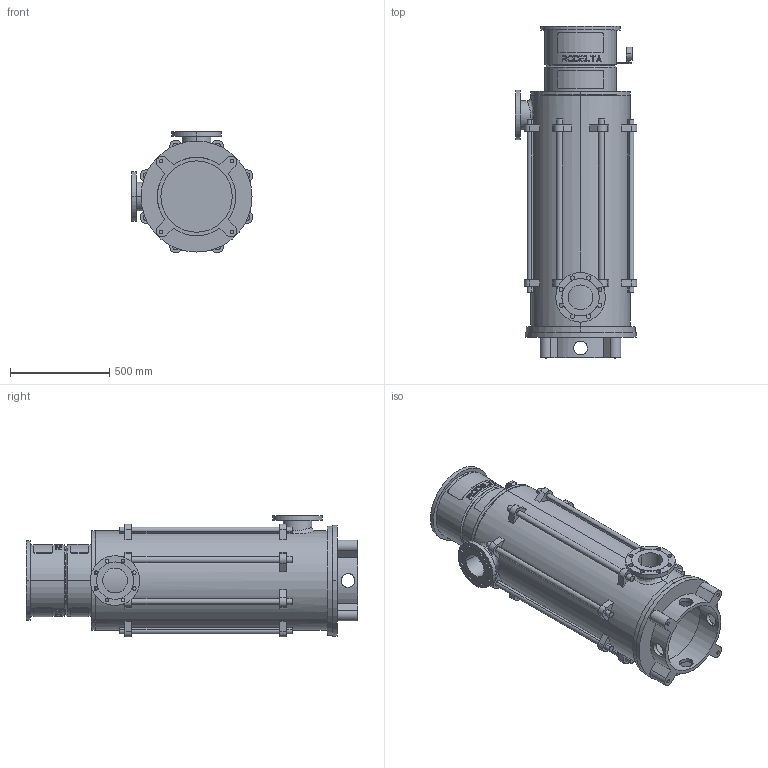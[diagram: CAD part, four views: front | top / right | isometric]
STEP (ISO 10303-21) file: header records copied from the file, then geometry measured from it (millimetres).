
FILE_DESCRIPTION((''),'2;1');
FILE_NAME('LS5_7TR_0GR_TOT_30KW','2023-08-08T',('Lyritlocal'),(''),'PRO/ENGINEER BY PARAMETRIC TECHNOLOGY CORPORATION, 2016360','PRO/ENGINEER BY PARAMETRIC TECHNOLOGY CORPORATION, 2016360','');
FILE_SCHEMA(('CONFIG_CONTROL_DESIGN'));
Length unit declared in the file: millimetre
Products named in the file (1): LS5_7TR_0GR_TOT_30KW
Bounding box: 614.04 x 1674 x 614.04 mm (x, y, z)
Volume: 45350491 mm3; surface area: 6810562.9 mm2
Topology: 3 solids, 7 shells, 672 faces, 1749 edges, 1158 vertices
Faces by surface type: plane 414, cylinder 242, cone 12, bspline 4
Entity records: 21884 total; most frequent: CARTESIAN_POINT 5432, ORIENTED_EDGE 3482, DIRECTION 3271, EDGE_CURVE 1749, AXIS2_PLACEMENT_3D 1241, VERTEX_POINT 1158, EDGE_LOOP 807, VECTOR 789
